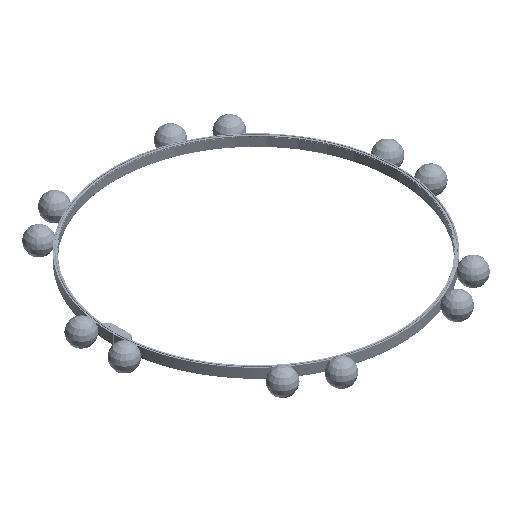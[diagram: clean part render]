
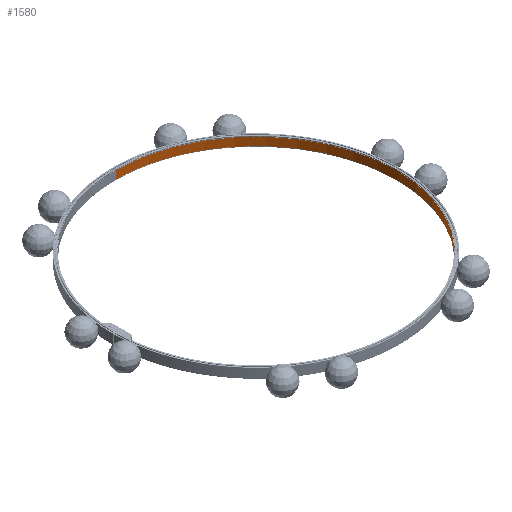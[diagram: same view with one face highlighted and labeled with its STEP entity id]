
A CAD part, isometric view. The second image highlights one B-rep face of the part: STEP entity #1580.
In plain terms, the highlighted free-form (B-spline) face has degree [1, 2] with [2, 5] control points.
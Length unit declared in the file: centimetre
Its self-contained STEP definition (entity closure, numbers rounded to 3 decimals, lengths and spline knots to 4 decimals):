
#665=B_SPLINE_CURVE_WITH_KNOTS('',1,(#15512,#15513),.UNSPECIFIED.,.F.,.F.,
(2,2),(2.,3.),.UNSPECIFIED.);
#670=B_SPLINE_CURVE_WITH_KNOTS('',1,(#15557,#15558),.UNSPECIFIED.,.F.,.F.,
(2,2),(2.,3.),.UNSPECIFIED.);
#1580=ADVANCED_FACE('',(#2440),#12652,.T.);
#2440=FACE_OUTER_BOUND('',#3300,.T.);
#3300=EDGE_LOOP('',(#4366,#4367,#4368,#4369));
#4366=ORIENTED_EDGE('',*,*,#8269,.T.);
#4367=ORIENTED_EDGE('',*,*,#8264,.T.);
#4368=ORIENTED_EDGE('',*,*,#8257,.F.);
#4369=ORIENTED_EDGE('',*,*,#8268,.F.);
#8257=EDGE_CURVE('',#11420,#11419,#665,.T.);
#8264=EDGE_CURVE('',#11422,#11419,#10221,.T.);
#8268=EDGE_CURVE('',#11425,#11420,#10223,.T.);
#8269=EDGE_CURVE('',#11425,#11422,#670,.T.);
#10221=(
BOUNDED_CURVE()
B_SPLINE_CURVE(2,(#15538,#15539,#15540,#15541,#15542),.UNSPECIFIED.,.F.,
 .F.)
B_SPLINE_CURVE_WITH_KNOTS((3,2,3),(184.6631,276.9946,369.3261),
 .UNSPECIFIED.)
CURVE()
GEOMETRIC_REPRESENTATION_ITEM()
RATIONAL_B_SPLINE_CURVE((1.,0.707,1.,0.707,1.))
REPRESENTATION_ITEM('')
);
#10223=(
BOUNDED_CURVE()
B_SPLINE_CURVE(2,(#15552,#15553,#15554,#15555,#15556),.UNSPECIFIED.,.F.,
 .F.)
B_SPLINE_CURVE_WITH_KNOTS((3,2,3),(184.6631,276.9946,369.3261),
 .UNSPECIFIED.)
CURVE()
GEOMETRIC_REPRESENTATION_ITEM()
RATIONAL_B_SPLINE_CURVE((1.,0.707,1.,0.707,1.))
REPRESENTATION_ITEM('')
);
#11419=VERTEX_POINT('',#15496);
#11420=VERTEX_POINT('',#15497);
#11422=VERTEX_POINT('',#15499);
#11425=VERTEX_POINT('',#15502);
#12652=(
BOUNDED_SURFACE()
B_SPLINE_SURFACE(1,2,((#15485,#15486,#15487,#15488,#15489),(#15490,#15491,
#15492,#15493,#15494)),.UNSPECIFIED.,.F.,.F.,.F.)
B_SPLINE_SURFACE_WITH_KNOTS((2,2),(3,2,3),(2.,3.),(184.6631,276.9946,
369.3261),.UNSPECIFIED.)
GEOMETRIC_REPRESENTATION_ITEM()
RATIONAL_B_SPLINE_SURFACE(((1.,0.707,1.,0.707,1.),
(1.,0.707,1.,0.707,1.)))
REPRESENTATION_ITEM('')
SURFACE()
);
#15485=CARTESIAN_POINT('',(0.,-58.6801,3.815));
#15486=CARTESIAN_POINT('',(58.6801,-58.6801,3.815));
#15487=CARTESIAN_POINT('',(58.6801,0.,3.815));
#15488=CARTESIAN_POINT('',(58.6801,58.6801,3.815));
#15489=CARTESIAN_POINT('',(0.,58.6801,3.815));
#15490=CARTESIAN_POINT('',(0.,-58.6801,7.185));
#15491=CARTESIAN_POINT('',(58.6801,-58.6801,7.185));
#15492=CARTESIAN_POINT('',(58.6801,0.,7.185));
#15493=CARTESIAN_POINT('',(58.6801,58.6801,7.185));
#15494=CARTESIAN_POINT('',(0.,58.6801,7.185));
#15496=CARTESIAN_POINT('',(0.,58.6801,7.185));
#15497=CARTESIAN_POINT('',(0.,58.6801,3.815));
#15499=CARTESIAN_POINT('',(0.,-58.6801,7.185));
#15502=CARTESIAN_POINT('',(0.,-58.6801,3.815));
#15512=CARTESIAN_POINT('',(0.,58.6801,3.815));
#15513=CARTESIAN_POINT('',(0.,58.6801,7.185));
#15538=CARTESIAN_POINT('',(0.,-58.6801,7.185));
#15539=CARTESIAN_POINT('',(58.6801,-58.6801,7.185));
#15540=CARTESIAN_POINT('',(58.6801,0.,7.185));
#15541=CARTESIAN_POINT('',(58.6801,58.6801,7.185));
#15542=CARTESIAN_POINT('',(0.,58.6801,7.185));
#15552=CARTESIAN_POINT('',(0.,-58.6801,3.815));
#15553=CARTESIAN_POINT('',(58.6801,-58.6801,3.815));
#15554=CARTESIAN_POINT('',(58.6801,0.,3.815));
#15555=CARTESIAN_POINT('',(58.6801,58.6801,3.815));
#15556=CARTESIAN_POINT('',(0.,58.6801,3.815));
#15557=CARTESIAN_POINT('',(0.,-58.6801,3.815));
#15558=CARTESIAN_POINT('',(0.,-58.6801,7.185));
